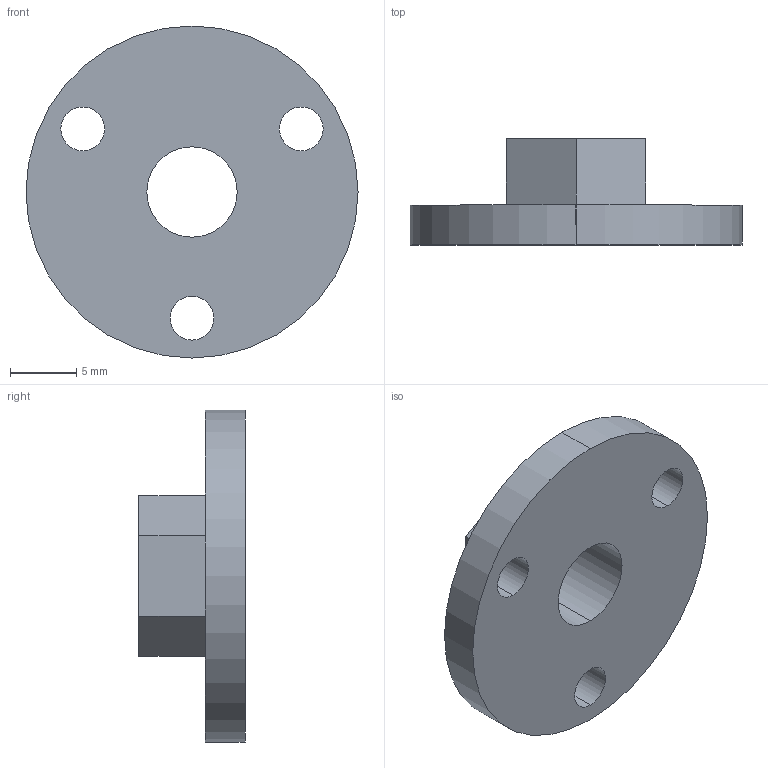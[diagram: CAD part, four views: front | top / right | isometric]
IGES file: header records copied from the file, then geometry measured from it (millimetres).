
Global section: file name: No Iges File Name specified; native system: AutoDesk Inventor R11.0; preprocessor: AutoDesk Inventor Iges Exporter R11.0; author: No Author specified; organization: No Organization specified; date: 20130722.155627; units: millimetre
Bounding box: 25 x 8 x 25 mm (x, y, z)
Surface area: 1539.1 mm2 (no closed solid volume)
Topology: 0 solids, 0 shells, 19 faces, 96 edges, 96 vertices
Faces by surface type: revolution 10, plane 9
